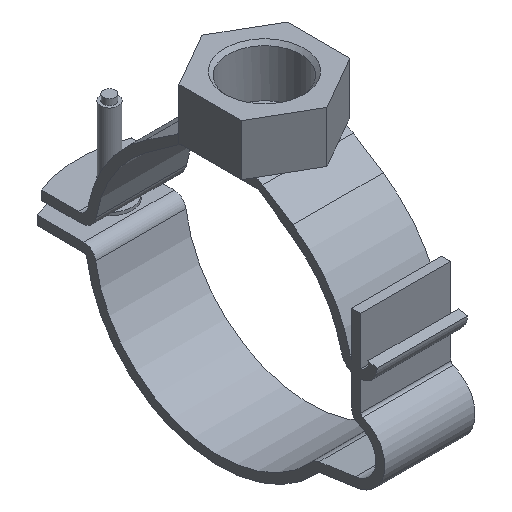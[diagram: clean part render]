
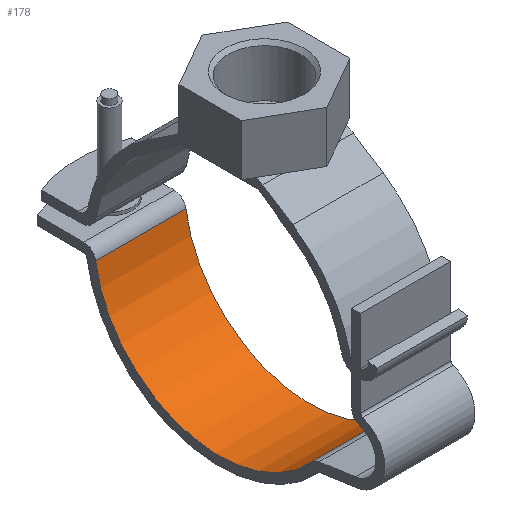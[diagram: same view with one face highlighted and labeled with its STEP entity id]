
A CAD part, isometric view. The second image highlights one B-rep face of the part: STEP entity #178.
In plain terms, the highlighted cylindrical face has radius 41.5 mm (diameter 83 mm), a partial arc.
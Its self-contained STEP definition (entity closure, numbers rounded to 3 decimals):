
#178 = ADVANCED_FACE( '', ( #391 ), #392, .F. );
#391 = FACE_OUTER_BOUND( '', #630, .T. );
#392 = CYLINDRICAL_SURFACE( '', #631, 41.5 );
#630 = EDGE_LOOP( '', ( #1105, #1106, #1107, #1108 ) );
#631 = AXIS2_PLACEMENT_3D( '', #1109, #1110, #1111 );
#1105 = ORIENTED_EDGE( '', *, *, #1561, .F. );
#1106 = ORIENTED_EDGE( '', *, *, #1406, .F. );
#1107 = ORIENTED_EDGE( '', *, *, #1586, .T. );
#1108 = ORIENTED_EDGE( '', *, *, #1567, .T. );
#1109 = CARTESIAN_POINT( '', ( 15., 0., 0. ) );
#1110 = DIRECTION( '', ( 1., 0., 0. ) );
#1111 = DIRECTION( '', ( 0., 0., 1. ) );
#1406 = EDGE_CURVE( '', #1676, #1671, #1678, .T. );
#1561 = EDGE_CURVE( '', #1671, #1929, #1930, .T. );
#1567 = EDGE_CURVE( '', #1937, #1929, #1938, .T. );
#1586 = EDGE_CURVE( '', #1676, #1937, #1962, .T. );
#1671 = VERTEX_POINT( '', #2065 );
#1676 = VERTEX_POINT( '', #2071 );
#1678 = LINE( '', #2073, #2074 );
#1929 = VERTEX_POINT( '', #2404 );
#1930 = CIRCLE( '', #2405, 41.5 );
#1937 = VERTEX_POINT( '', #2414 );
#1938 = LINE( '', #2415, #2416 );
#1962 = CIRCLE( '', #2447, 41.5 );
#2065 = CARTESIAN_POINT( '', ( -15., -30.728, -27.893 ) );
#2071 = CARTESIAN_POINT( '', ( 15., -30.728, -27.893 ) );
#2073 = CARTESIAN_POINT( '', ( 15., -30.728, -27.893 ) );
#2074 = VECTOR( '', #2567, 1000. );
#2404 = CARTESIAN_POINT( '', ( -15., 41.074, -5.929 ) );
#2405 = AXIS2_PLACEMENT_3D( '', #2782, #2783, #2784 );
#2414 = CARTESIAN_POINT( '', ( 15., 41.074, -5.929 ) );
#2415 = CARTESIAN_POINT( '', ( 15., 41.074, -5.929 ) );
#2416 = VECTOR( '', #2790, 1000. );
#2447 = AXIS2_PLACEMENT_3D( '', #2810, #2811, #2812 );
#2567 = DIRECTION( '', ( -1., 0., 0. ) );
#2782 = CARTESIAN_POINT( '', ( -15., 0., 0. ) );
#2783 = DIRECTION( '', ( 1., 0., 0. ) );
#2784 = DIRECTION( '', ( 0., 0., -1. ) );
#2790 = DIRECTION( '', ( -1., 0., 0. ) );
#2810 = CARTESIAN_POINT( '', ( 15., 0., 0. ) );
#2811 = DIRECTION( '', ( 1., 0., 0. ) );
#2812 = DIRECTION( '', ( 0., 0., -1. ) );
